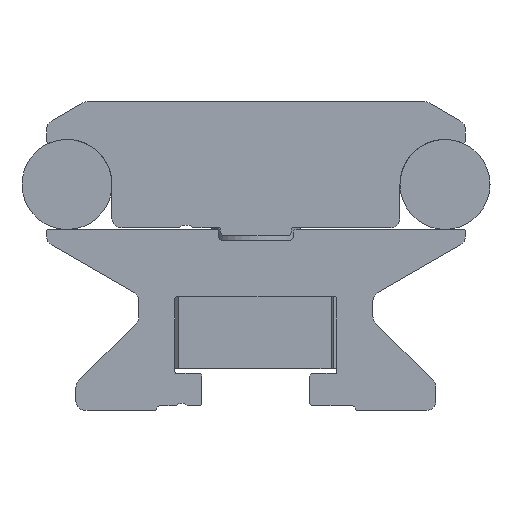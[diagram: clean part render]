
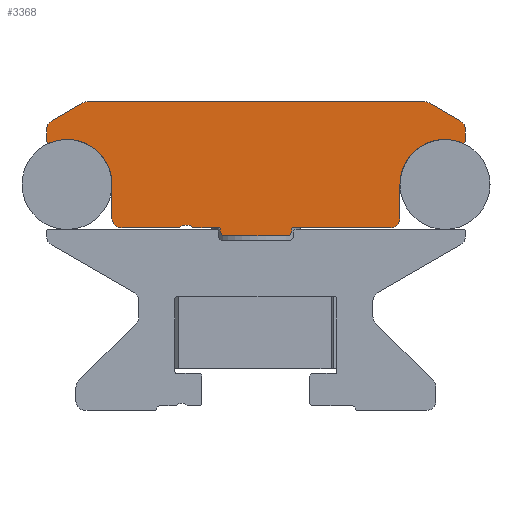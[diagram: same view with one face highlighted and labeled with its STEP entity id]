
A CAD part, left-side view. The second image highlights one B-rep face of the part: STEP entity #3368.
In plain terms, the highlighted planar face has unit normal (-1, 0, 0).
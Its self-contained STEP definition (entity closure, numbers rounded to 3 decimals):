
#112=CIRCLE('',#3645,0.5);
#115=CIRCLE('',#3650,0.5);
#117=CIRCLE('',#3655,1.);
#126=CIRCLE('',#3666,1.);
#128=CIRCLE('',#3670,1.);
#130=CIRCLE('',#3674,0.2);
#132=CIRCLE('',#3677,5.);
#134=CIRCLE('',#3681,1.);
#136=CIRCLE('',#3685,1.);
#144=CIRCLE('',#3695,0.2);
#148=CIRCLE('',#3705,0.2);
#157=CIRCLE('',#3716,1.);
#159=CIRCLE('',#3720,5.);
#161=CIRCLE('',#3723,0.2);
#163=CIRCLE('',#3727,1.);
#284=PLANE('',#3729);
#740=ORIENTED_EDGE('',*,*,#1527,.T.);
#741=ORIENTED_EDGE('',*,*,#1538,.T.);
#742=ORIENTED_EDGE('',*,*,#1541,.T.);
#743=ORIENTED_EDGE('',*,*,#1544,.T.);
#744=ORIENTED_EDGE('',*,*,#1547,.T.);
#745=ORIENTED_EDGE('',*,*,#1550,.T.);
#746=ORIENTED_EDGE('',*,*,#1553,.T.);
#747=ORIENTED_EDGE('',*,*,#1556,.T.);
#748=ORIENTED_EDGE('',*,*,#1559,.T.);
#749=ORIENTED_EDGE('',*,*,#1562,.T.);
#750=ORIENTED_EDGE('',*,*,#1565,.T.);
#751=ORIENTED_EDGE('',*,*,#1568,.T.);
#752=ORIENTED_EDGE('',*,*,#1574,.T.);
#753=ORIENTED_EDGE('',*,*,#1581,.T.);
#754=ORIENTED_EDGE('',*,*,#1583,.T.);
#755=ORIENTED_EDGE('',*,*,#1512,.T.);
#756=ORIENTED_EDGE('',*,*,#1587,.T.);
#757=ORIENTED_EDGE('',*,*,#1518,.T.);
#758=ORIENTED_EDGE('',*,*,#1521,.T.);
#759=ORIENTED_EDGE('',*,*,#1595,.T.);
#760=ORIENTED_EDGE('',*,*,#1602,.T.);
#761=ORIENTED_EDGE('',*,*,#1608,.T.);
#762=ORIENTED_EDGE('',*,*,#1611,.T.);
#763=ORIENTED_EDGE('',*,*,#1614,.T.);
#764=ORIENTED_EDGE('',*,*,#1617,.T.);
#765=ORIENTED_EDGE('',*,*,#1620,.T.);
#766=ORIENTED_EDGE('',*,*,#1623,.T.);
#767=ORIENTED_EDGE('',*,*,#1625,.T.);
#1512=EDGE_CURVE('',#1960,#1963,#112,.T.);
#1518=EDGE_CURVE('',#1964,#1967,#115,.T.);
#1521=EDGE_CURVE('',#1967,#1969,#2274,.T.);
#1527=EDGE_CURVE('',#1975,#1974,#117,.T.);
#1538=EDGE_CURVE('',#1974,#1984,#2280,.T.);
#1541=EDGE_CURVE('',#1984,#1986,#126,.T.);
#1544=EDGE_CURVE('',#1986,#1988,#2284,.T.);
#1547=EDGE_CURVE('',#1988,#1990,#128,.T.);
#1550=EDGE_CURVE('',#1990,#1992,#2288,.T.);
#1553=EDGE_CURVE('',#1992,#1994,#130,.T.);
#1556=EDGE_CURVE('',#1994,#1996,#132,.T.);
#1559=EDGE_CURVE('',#1996,#1998,#2293,.T.);
#1562=EDGE_CURVE('',#1998,#2000,#134,.T.);
#1565=EDGE_CURVE('',#2000,#2002,#2297,.T.);
#1568=EDGE_CURVE('',#2002,#2004,#136,.T.);
#1574=EDGE_CURVE('',#2004,#2006,#2300,.T.);
#1581=EDGE_CURVE('',#2006,#2008,#144,.T.);
#1583=EDGE_CURVE('',#2008,#1960,#2304,.T.);
#1587=EDGE_CURVE('',#1963,#1964,#2305,.T.);
#1595=EDGE_CURVE('',#1969,#2012,#148,.T.);
#1602=EDGE_CURVE('',#2012,#2014,#2312,.T.);
#1608=EDGE_CURVE('',#2014,#2016,#157,.T.);
#1611=EDGE_CURVE('',#2016,#2018,#2316,.T.);
#1614=EDGE_CURVE('',#2018,#2020,#159,.T.);
#1617=EDGE_CURVE('',#2020,#2022,#161,.T.);
#1620=EDGE_CURVE('',#2022,#2024,#2321,.T.);
#1623=EDGE_CURVE('',#2024,#2026,#163,.T.);
#1625=EDGE_CURVE('',#2026,#1975,#2324,.T.);
#1960=VERTEX_POINT('',#5394);
#1963=VERTEX_POINT('',#5403);
#1964=VERTEX_POINT('',#5410);
#1967=VERTEX_POINT('',#5419);
#1969=VERTEX_POINT('',#5425);
#1974=VERTEX_POINT('',#5444);
#1975=VERTEX_POINT('',#5446);
#1984=VERTEX_POINT('',#5466);
#1986=VERTEX_POINT('',#5472);
#1988=VERTEX_POINT('',#5478);
#1990=VERTEX_POINT('',#5484);
#1992=VERTEX_POINT('',#5490);
#1994=VERTEX_POINT('',#5496);
#1996=VERTEX_POINT('',#5502);
#1998=VERTEX_POINT('',#5508);
#2000=VERTEX_POINT('',#5514);
#2002=VERTEX_POINT('',#5520);
#2004=VERTEX_POINT('',#5526);
#2006=VERTEX_POINT('',#5535);
#2008=VERTEX_POINT('',#5548);
#2012=VERTEX_POINT('',#5583);
#2014=VERTEX_POINT('',#5593);
#2016=VERTEX_POINT('',#5602);
#2018=VERTEX_POINT('',#5608);
#2020=VERTEX_POINT('',#5614);
#2022=VERTEX_POINT('',#5620);
#2024=VERTEX_POINT('',#5626);
#2026=VERTEX_POINT('',#5632);
#2274=LINE('',#5426,#2552);
#2280=LINE('',#5467,#2558);
#2284=LINE('',#5479,#2562);
#2288=LINE('',#5491,#2566);
#2293=LINE('',#5509,#2571);
#2297=LINE('',#5521,#2575);
#2300=LINE('',#5536,#2578);
#2304=LINE('',#5552,#2582);
#2305=LINE('',#5562,#2583);
#2312=LINE('',#5594,#2590);
#2316=LINE('',#5609,#2594);
#2321=LINE('',#5627,#2599);
#2324=LINE('',#5636,#2602);
#2552=VECTOR('',#4160,1000.);
#2558=VECTOR('',#4190,1000.);
#2562=VECTOR('',#4202,1000.);
#2566=VECTOR('',#4214,1000.);
#2571=VECTOR('',#4233,1000.);
#2575=VECTOR('',#4245,1000.);
#2578=VECTOR('',#4264,1000.);
#2582=VECTOR('',#4280,1000.);
#2583=VECTOR('',#4289,1000.);
#2590=VECTOR('',#4316,1000.);
#2594=VECTOR('',#4334,1000.);
#2599=VECTOR('',#4353,1000.);
#2602=VECTOR('',#4364,1000.);
#2827=EDGE_LOOP('',(#740,#741,#742,#743,#744,#745,#746,#747,#748,#749,#750,
#751,#752,#753,#754,#755,#756,#757,#758,#759,#760,#761,#762,#763,#764,#765,
#766,#767));
#3055=FACE_BOUND('',#2827,.T.);
#3368=ADVANCED_FACE('',(#3055),#284,.T.);
#3645=AXIS2_PLACEMENT_3D('',#5404,#4142,#4143);
#3650=AXIS2_PLACEMENT_3D('',#5420,#4154,#4155);
#3655=AXIS2_PLACEMENT_3D('',#5445,#4169,#4170);
#3666=AXIS2_PLACEMENT_3D('',#5473,#4196,#4197);
#3670=AXIS2_PLACEMENT_3D('',#5485,#4208,#4209);
#3674=AXIS2_PLACEMENT_3D('',#5497,#4220,#4221);
#3677=AXIS2_PLACEMENT_3D('',#5503,#4227,#4228);
#3681=AXIS2_PLACEMENT_3D('',#5515,#4239,#4240);
#3685=AXIS2_PLACEMENT_3D('',#5527,#4251,#4252);
#3695=AXIS2_PLACEMENT_3D('',#5549,#4275,#4276);
#3705=AXIS2_PLACEMENT_3D('',#5584,#4302,#4303);
#3716=AXIS2_PLACEMENT_3D('',#5603,#4328,#4329);
#3720=AXIS2_PLACEMENT_3D('',#5615,#4340,#4341);
#3723=AXIS2_PLACEMENT_3D('',#5621,#4347,#4348);
#3727=AXIS2_PLACEMENT_3D('',#5633,#4359,#4360);
#3729=AXIS2_PLACEMENT_3D('',#5637,#4365,#4366);
#4142=DIRECTION('',(-1.,0.,0.));
#4143=DIRECTION('',(0.,-1.,0.));
#4154=DIRECTION('',(-1.,0.,0.));
#4155=DIRECTION('',(0.,1.,0.));
#4160=DIRECTION('',(0.,0.,1.));
#4169=DIRECTION('',(-1.,0.,0.));
#4170=DIRECTION('',(0.,1.,0.));
#4190=DIRECTION('',(0.,1.,0.));
#4196=DIRECTION('',(-1.,0.,0.));
#4197=DIRECTION('',(0.,1.,0.));
#4202=DIRECTION('',(0.,0.866,-0.5));
#4208=DIRECTION('',(-1.,0.,0.));
#4209=DIRECTION('',(0.,-1.,0.));
#4214=DIRECTION('',(0.,0.,-1.));
#4220=DIRECTION('',(-1.,0.,0.));
#4221=DIRECTION('',(0.,-1.,0.));
#4227=DIRECTION('',(1.,0.,0.));
#4228=DIRECTION('',(0.,1.,0.));
#4233=DIRECTION('',(0.,0.,-1.));
#4239=DIRECTION('',(-1.,0.,0.));
#4240=DIRECTION('',(0.,-1.,0.));
#4245=DIRECTION('',(0.,-1.,0.));
#4251=DIRECTION('',(1.,0.,0.));
#4252=DIRECTION('',(0.,1.,0.));
#4264=DIRECTION('',(0.,-1.,0.));
#4275=DIRECTION('',(1.,0.,0.));
#4276=DIRECTION('',(0.,1.,0.));
#4280=DIRECTION('',(0.,0.,-1.));
#4289=DIRECTION('',(0.,-1.,0.));
#4302=DIRECTION('',(1.,0.,0.));
#4303=DIRECTION('',(0.,1.,0.));
#4316=DIRECTION('',(0.,-1.,0.));
#4328=DIRECTION('',(-1.,0.,0.));
#4329=DIRECTION('',(0.,1.,0.));
#4334=DIRECTION('',(0.,0.,1.));
#4340=DIRECTION('',(1.,0.,0.));
#4341=DIRECTION('',(0.,1.,0.));
#4347=DIRECTION('',(-1.,0.,0.));
#4348=DIRECTION('',(0.,1.,0.));
#4353=DIRECTION('',(0.,0.,1.));
#4359=DIRECTION('',(-1.,0.,0.));
#4360=DIRECTION('',(0.,1.,0.));
#4364=DIRECTION('',(0.,0.866,0.5));
#4365=DIRECTION('',(-1.,0.,0.));
#4366=DIRECTION('',(0.,-1.,0.));
#5394=CARTESIAN_POINT('',(-800.,153.34,114.744));
#5403=CARTESIAN_POINT('',(-800.,152.84,114.244));
#5404=CARTESIAN_POINT('',(-800.,152.84,114.744));
#5410=CARTESIAN_POINT('',(-800.,145.94,114.244));
#5419=CARTESIAN_POINT('',(-800.,145.44,114.744));
#5420=CARTESIAN_POINT('',(-800.,145.94,114.744));
#5425=CARTESIAN_POINT('',(-800.,145.44,114.944));
#5426=CARTESIAN_POINT('',(-800.,145.44,114.744));
#5444=CARTESIAN_POINT('',(-800.,130.64,129.144));
#5445=CARTESIAN_POINT('',(-800.,130.64,128.144));
#5446=CARTESIAN_POINT('',(-800.,130.14,129.01));
#5466=CARTESIAN_POINT('',(-800.,168.14,129.144));
#5467=CARTESIAN_POINT('',(-800.,130.64,129.144));
#5472=CARTESIAN_POINT('',(-800.,168.64,129.01));
#5473=CARTESIAN_POINT('',(-800.,168.14,128.144));
#5478=CARTESIAN_POINT('',(-800.,172.14,126.989));
#5479=CARTESIAN_POINT('',(-800.,168.64,129.01));
#5484=CARTESIAN_POINT('',(-800.,172.64,126.123));
#5485=CARTESIAN_POINT('',(-800.,171.64,126.123));
#5490=CARTESIAN_POINT('',(-800.,172.64,124.723));
#5491=CARTESIAN_POINT('',(-800.,172.64,126.123));
#5496=CARTESIAN_POINT('',(-800.,172.361,124.539));
#5497=CARTESIAN_POINT('',(-800.,172.44,124.723));
#5502=CARTESIAN_POINT('',(-800.,165.39,119.944));
#5503=CARTESIAN_POINT('',(-800.,170.39,119.944));
#5508=CARTESIAN_POINT('',(-800.,165.39,116.144));
#5509=CARTESIAN_POINT('',(-800.,165.39,119.944));
#5514=CARTESIAN_POINT('',(-800.,164.39,115.144));
#5515=CARTESIAN_POINT('',(-800.,164.39,116.144));
#5520=CARTESIAN_POINT('',(-800.,157.854,115.144));
#5521=CARTESIAN_POINT('',(-800.,164.39,115.144));
#5526=CARTESIAN_POINT('',(-800.,156.426,115.144));
#5527=CARTESIAN_POINT('',(-800.,157.14,114.444));
#5535=CARTESIAN_POINT('',(-800.,153.54,115.144));
#5536=CARTESIAN_POINT('',(-800.,156.426,115.144));
#5548=CARTESIAN_POINT('',(-800.,153.34,114.944));
#5549=CARTESIAN_POINT('',(-800.,153.54,114.944));
#5552=CARTESIAN_POINT('',(-800.,153.34,114.944));
#5562=CARTESIAN_POINT('',(-800.,152.84,114.244));
#5583=CARTESIAN_POINT('',(-800.,145.24,115.144));
#5584=CARTESIAN_POINT('',(-800.,145.24,114.944));
#5593=CARTESIAN_POINT('',(-800.,134.39,115.144));
#5594=CARTESIAN_POINT('',(-800.,145.24,115.144));
#5602=CARTESIAN_POINT('',(-800.,133.39,116.144));
#5603=CARTESIAN_POINT('',(-800.,134.39,116.144));
#5608=CARTESIAN_POINT('',(-800.,133.39,119.944));
#5609=CARTESIAN_POINT('',(-800.,133.39,116.144));
#5614=CARTESIAN_POINT('',(-800.,126.419,124.539));
#5615=CARTESIAN_POINT('',(-800.,128.39,119.944));
#5620=CARTESIAN_POINT('',(-800.,126.14,124.723));
#5621=CARTESIAN_POINT('',(-800.,126.34,124.723));
#5626=CARTESIAN_POINT('',(-800.,126.14,126.123));
#5627=CARTESIAN_POINT('',(-800.,126.14,124.723));
#5632=CARTESIAN_POINT('',(-800.,126.64,126.989));
#5633=CARTESIAN_POINT('',(-800.,127.14,126.123));
#5636=CARTESIAN_POINT('',(-800.,126.64,126.989));
#5637=CARTESIAN_POINT('',(-800.,130.64,128.144));
